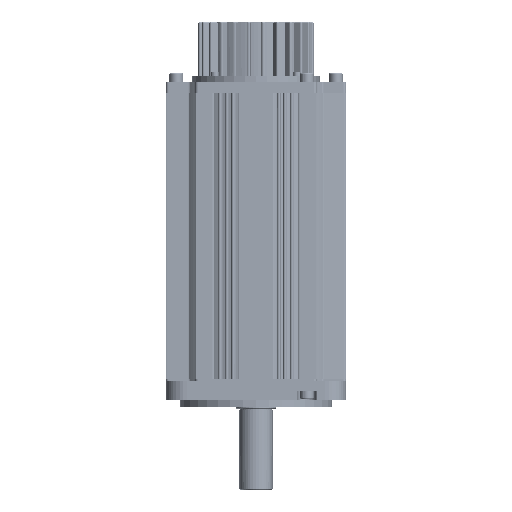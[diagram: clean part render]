
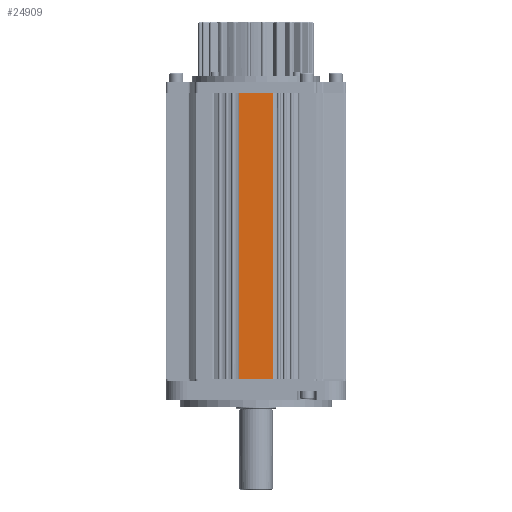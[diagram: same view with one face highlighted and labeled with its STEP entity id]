
A CAD part, front view. The second image highlights one B-rep face of the part: STEP entity #24909.
In plain terms, the highlighted planar face has unit normal (0, -1, 0) as drawn and (0, 0, -1) by its records, which use the part's own axes.
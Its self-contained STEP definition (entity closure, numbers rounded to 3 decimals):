
#4263=DIRECTION('',(-1.,0.,0.));
#4264=VECTOR('',#4263,207.);
#4265=CARTESIAN_POINT('',(207.,-12.3,-65.));
#4266=LINE('',#4265,#4264);
#7344=DIRECTION('',(0.,-1.,0.));
#7345=VECTOR('',#7344,24.6);
#7346=CARTESIAN_POINT('',(207.,12.3,-65.));
#7347=LINE('',#7346,#7345);
#10196=DIRECTION('',(1.,0.,0.));
#10197=VECTOR('',#10196,207.);
#10198=CARTESIAN_POINT('',(0.,12.3,-65.));
#10199=LINE('',#10198,#10197);
#10200=DIRECTION('',(0.,-1.,0.));
#10201=VECTOR('',#10200,24.6);
#10202=CARTESIAN_POINT('',(0.,12.3,-65.));
#10203=LINE('',#10202,#10201);
#10849=CARTESIAN_POINT('',(0.,-12.3,-65.));
#10851=VERTEX_POINT('',#10849);
#10852=CARTESIAN_POINT('',(0.,12.3,-65.));
#10853=VERTEX_POINT('',#10852);
#12194=CARTESIAN_POINT('',(207.,-12.3,-65.));
#12195=VERTEX_POINT('',#12194);
#13488=CARTESIAN_POINT('',(207.,12.3,-65.));
#13489=VERTEX_POINT('',#13488);
#24898=CARTESIAN_POINT('',(0.,-65.,-65.));
#24899=DIRECTION('',(0.,0.,-1.));
#24900=DIRECTION('',(0.,1.,0.));
#24901=AXIS2_PLACEMENT_3D('',#24898,#24899,#24900);
#24902=PLANE('',#24901);
#24903=ORIENTED_EDGE('',*,*,#14983,.F.);
#24904=ORIENTED_EDGE('',*,*,#16492,.F.);
#24905=ORIENTED_EDGE('',*,*,#24893,.F.);
#24906=ORIENTED_EDGE('',*,*,#13624,.T.);
#24907=EDGE_LOOP('',(#24903,#24904,#24905,#24906));
#24908=FACE_OUTER_BOUND('',#24907,.F.);
#24909=ADVANCED_FACE('',(#24908),#24902,.T.);
#13624=EDGE_CURVE('',#10853,#10851,#10203,.T.);
#14983=EDGE_CURVE('',#12195,#10851,#4266,.T.);
#16492=EDGE_CURVE('',#13489,#12195,#7347,.T.);
#24893=EDGE_CURVE('',#10853,#13489,#10199,.T.);
